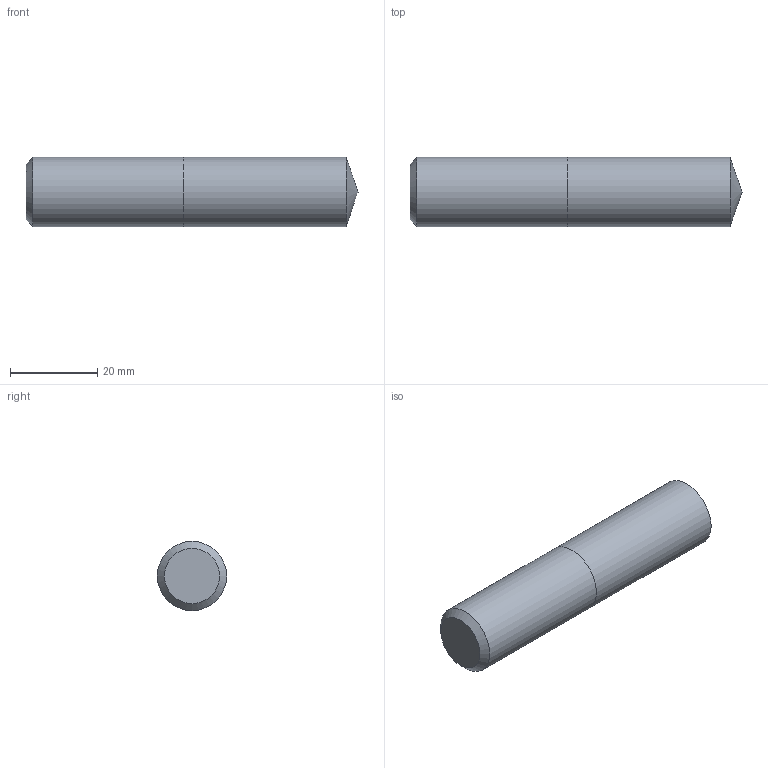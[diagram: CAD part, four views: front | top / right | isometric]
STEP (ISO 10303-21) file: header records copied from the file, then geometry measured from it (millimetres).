
FILE_DESCRIPTION (( 'STEP AP214' ), '1' );
FILE_NAME ('03-2225.STEP', '2022-02-07T07:04:57', ( 'USER' ), ( '' ), 'SwSTEP 2.0', 'SolidWorks 2018', '' );
FILE_SCHEMA (( 'AUTOMOTIVE_DESIGN' ));
Length unit declared in the file: millimetre
Products named in the file (1): 03-2225
Bounding box: 76.2 x 15.88 x 15.88 mm (x, y, z)
Volume: 14663.2 mm3; surface area: 4417.5 mm2
Topology: 2 solids, 2 shells, 7 faces, 11 edges, 7 vertices
Faces by surface type: plane 3, cylinder 2, cone 2
Full cylindrical faces by diameter (mm): 15.875 x2
Entity records: 189 total; most frequent: DIRECTION 26, CARTESIAN_POINT 18, AXIS2_PLACEMENT_3D 13, ORIENTED_EDGE 10, EDGE_LOOP 10, FACE_OUTER_BOUND 9, ADVANCED_FACE 7, UNCERTAINTY_MEASURE_WITH_UNIT 6
